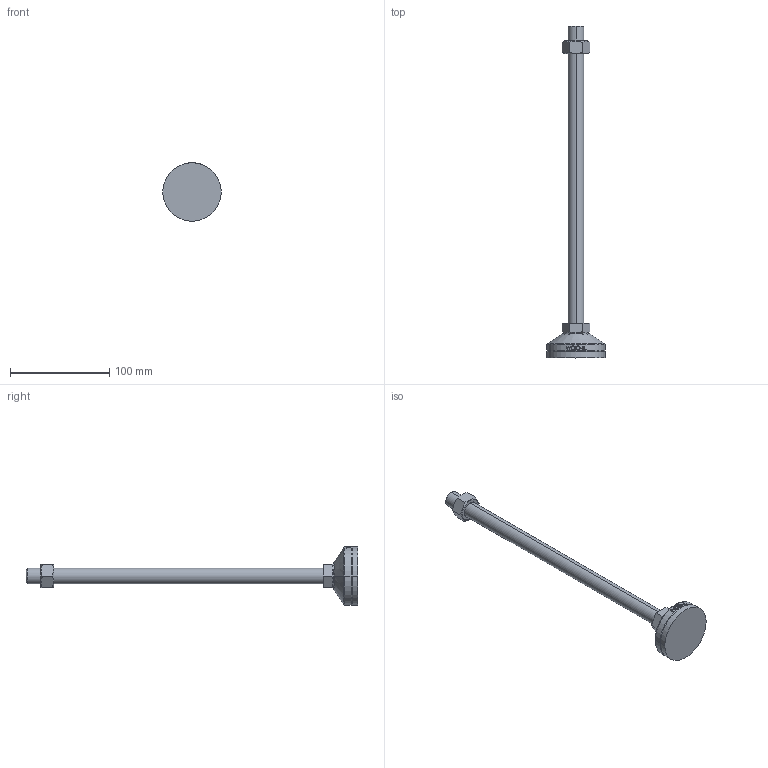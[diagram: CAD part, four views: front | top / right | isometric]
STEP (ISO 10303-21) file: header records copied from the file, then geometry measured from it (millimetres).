
FILE_DESCRIPTION (( 'STEP AP214' ), '1' );
FILE_NAME ('MFR59-M16-300.step', '2021-01-15T08:02:12', ( '' ), ( '' ), 'SwSTEP 2.0', 'SolidWorks 2019', '' );
FILE_SCHEMA (( 'AUTOMOTIVE_DESIGN' ));
Length unit declared in the file: millimetre
Products named in the file (2): MFR59-M16-300
Bounding box: 59 x 335 x 59 mm (x, y, z)
Volume: 123651.3 mm3; surface area: 32997.5 mm2
Topology: 4 solids, 4 shells, 103 faces, 235 edges, 150 vertices
Faces by surface type: plane 49, cylinder 18, bspline 16, cone 14, torus 6
Entity records: 4363 total; most frequent: CARTESIAN_POINT 2090, ORIENTED_EDGE 470, DIRECTION 417, EDGE_CURVE 235, AXIS2_PLACEMENT_3D 159, VERTEX_POINT 150, EDGE_LOOP 115, FACE_OUTER_BOUND 103
